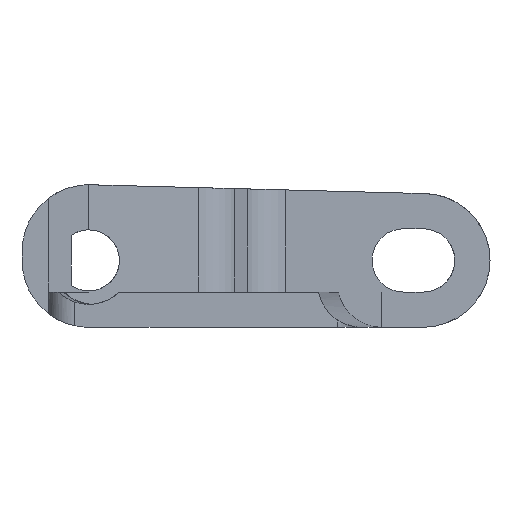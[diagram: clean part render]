
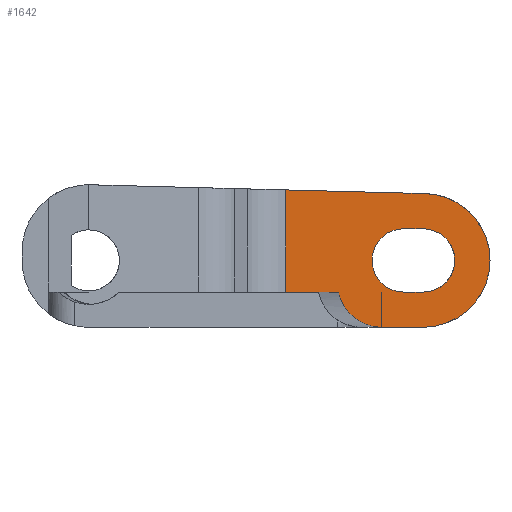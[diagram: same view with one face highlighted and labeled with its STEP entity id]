
A CAD part, front view. The second image highlights one B-rep face of the part: STEP entity #1642.
In plain terms, the highlighted planar face has unit normal (0, -1, 0).
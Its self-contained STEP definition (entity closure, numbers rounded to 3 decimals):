
#16=FACE_BOUND('',#217,.T.);
#33=ELLIPSE('',#1767,5.015,5.);
#65=PLANE('',#1766);
#131=FACE_OUTER_BOUND('',#216,.T.);
#216=EDGE_LOOP('',(#1223,#1224,#1225,#1226,#1227,#1228,#1229,#1230,#1231,
#1232));
#217=EDGE_LOOP('',(#1233,#1234,#1235,#1236));
#301=CIRCLE('',#1768,7.6);
#302=CIRCLE('',#1769,3.6);
#303=CIRCLE('',#1770,3.6);
#359=LINE('',#2552,#525);
#364=LINE('',#2567,#530);
#388=LINE('',#2638,#554);
#389=LINE('',#2640,#555);
#390=LINE('',#2644,#556);
#391=LINE('',#2646,#557);
#392=LINE('',#2647,#558);
#393=LINE('',#2649,#559);
#394=LINE('',#2655,#560);
#395=LINE('',#2658,#561);
#525=VECTOR('',#1980,4.818);
#530=VECTOR('',#1991,15.719);
#554=VECTOR('',#2055,11.612);
#555=VECTOR('',#2056,5.981);
#556=VECTOR('',#2059,4.);
#557=VECTOR('',#2060,0.064);
#558=VECTOR('',#2061,4.);
#559=VECTOR('',#2062,0.001);
#560=VECTOR('',#2067,2.2);
#561=VECTOR('',#2070,2.2);
#711=VERTEX_POINT('',#2549);
#712=VERTEX_POINT('',#2551);
#718=VERTEX_POINT('',#2564);
#719=VERTEX_POINT('',#2566);
#746=VERTEX_POINT('',#2637);
#747=VERTEX_POINT('',#2639);
#748=VERTEX_POINT('',#2641);
#749=VERTEX_POINT('',#2643);
#750=VERTEX_POINT('',#2645);
#751=VERTEX_POINT('',#2648);
#752=VERTEX_POINT('',#2651);
#753=VERTEX_POINT('',#2652);
#754=VERTEX_POINT('',#2654);
#755=VERTEX_POINT('',#2656);
#888=EDGE_CURVE('',#712,#711,#359,.T.);
#895=EDGE_CURVE('',#719,#718,#364,.T.);
#932=EDGE_CURVE('',#746,#718,#388,.T.);
#933=EDGE_CURVE('',#747,#746,#389,.T.);
#934=EDGE_CURVE('',#748,#747,#33,.T.);
#935=EDGE_CURVE('',#749,#748,#390,.T.);
#936=EDGE_CURVE('',#750,#749,#391,.T.);
#937=EDGE_CURVE('',#712,#750,#392,.T.);
#938=EDGE_CURVE('',#711,#751,#393,.T.);
#939=EDGE_CURVE('',#719,#751,#301,.T.);
#940=EDGE_CURVE('',#752,#753,#302,.T.);
#941=EDGE_CURVE('',#753,#754,#394,.T.);
#942=EDGE_CURVE('',#754,#755,#303,.T.);
#943=EDGE_CURVE('',#755,#752,#395,.T.);
#1223=ORIENTED_EDGE('',*,*,#895,.T.);
#1224=ORIENTED_EDGE('',*,*,#932,.F.);
#1225=ORIENTED_EDGE('',*,*,#933,.F.);
#1226=ORIENTED_EDGE('',*,*,#934,.F.);
#1227=ORIENTED_EDGE('',*,*,#935,.F.);
#1228=ORIENTED_EDGE('',*,*,#936,.F.);
#1229=ORIENTED_EDGE('',*,*,#937,.F.);
#1230=ORIENTED_EDGE('',*,*,#888,.T.);
#1231=ORIENTED_EDGE('',*,*,#938,.T.);
#1232=ORIENTED_EDGE('',*,*,#939,.F.);
#1233=ORIENTED_EDGE('',*,*,#940,.T.);
#1234=ORIENTED_EDGE('',*,*,#941,.T.);
#1235=ORIENTED_EDGE('',*,*,#942,.T.);
#1236=ORIENTED_EDGE('',*,*,#943,.T.);
#1642=ADVANCED_FACE('',(#131,#16),#65,.F.);
#1766=AXIS2_PLACEMENT_3D('',#2636,#2053,#2054);
#1767=AXIS2_PLACEMENT_3D('',#2642,#2057,#2058);
#1768=AXIS2_PLACEMENT_3D('',#2650,#2063,#2064);
#1769=AXIS2_PLACEMENT_3D('',#2653,#2065,#2066);
#1770=AXIS2_PLACEMENT_3D('',#2657,#2068,#2069);
#1980=DIRECTION('',(1.,0.,0.));
#1991=DIRECTION('',(-1.,0.,0.026));
#2053=DIRECTION('center_axis',(0.,1.,0.));
#2054=DIRECTION('ref_axis',(-1.,0.,0.));
#2055=DIRECTION('',(0.,0.,1.));
#2056=DIRECTION('',(-1.,0.,0.));
#2057=DIRECTION('center_axis',(0.,1.,0.));
#2058=DIRECTION('ref_axis',(1.,0.,0.));
#2059=DIRECTION('',(0.,0.,-1.));
#2060=DIRECTION('',(-1.,0.,0.));
#2061=DIRECTION('',(0.,0.,1.));
#2062=DIRECTION('',(0.,0.,1.));
#2063=DIRECTION('center_axis',(0.,1.,0.));
#2064=DIRECTION('ref_axis',(0.013,0.,-1.));
#2065=DIRECTION('center_axis',(0.,1.,0.));
#2066=DIRECTION('ref_axis',(0.028,0.,-1.));
#2067=DIRECTION('',(-1.,0.,0.));
#2068=DIRECTION('center_axis',(0.,1.,0.));
#2069=DIRECTION('ref_axis',(0.,0.,
-1.));
#2070=DIRECTION('',(1.,0.,0.));
#2549=CARTESIAN_POINT('',(38.1,-12.7,0.));
#2551=CARTESIAN_POINT('',(33.282,-12.7,0.));
#2552=CARTESIAN_POINT('',(33.282,-12.7,0.));
#2564=CARTESIAN_POINT('',(22.387,-12.7,15.612));
#2566=CARTESIAN_POINT('',(38.1,-12.7,15.199));
#2567=CARTESIAN_POINT('',(19.249,-12.7,15.694));
#2636=CARTESIAN_POINT('Origin',(38.1,-12.7,0.));
#2637=CARTESIAN_POINT('',(22.387,-12.7,4.));
#2638=CARTESIAN_POINT('',(22.387,-12.7,8.1));
#2639=CARTESIAN_POINT('',(28.368,-12.7,4.));
#2640=CARTESIAN_POINT('',(33.184,-12.7,4.));
#2641=CARTESIAN_POINT('',(33.218,-12.7,0.));
#2642=CARTESIAN_POINT('Origin',(33.282,-12.7,5.));
#2643=CARTESIAN_POINT('',(33.218,-12.7,4.));
#2644=CARTESIAN_POINT('',(33.218,-12.7,4.5));
#2645=CARTESIAN_POINT('',(33.282,-12.7,4.));
#2646=CARTESIAN_POINT('',(33.184,-12.7,4.));
#2647=CARTESIAN_POINT('',(33.282,-12.7,0.));
#2648=CARTESIAN_POINT('',(38.1,-12.7,0.001));
#2649=CARTESIAN_POINT('',(38.1,-12.7,0.));
#2650=CARTESIAN_POINT('Origin',(38.,-12.7,7.6));
#2651=CARTESIAN_POINT('',(38.,-12.7,11.2));
#2652=CARTESIAN_POINT('',(38.,-12.7,4.));
#2653=CARTESIAN_POINT('Origin',(38.,-12.7,7.6));
#2654=CARTESIAN_POINT('',(35.8,-12.7,4.));
#2655=CARTESIAN_POINT('',(36.95,-12.7,4.));
#2656=CARTESIAN_POINT('',(35.8,-12.7,11.2));
#2657=CARTESIAN_POINT('Origin',(35.8,-12.7,7.6));
#2658=CARTESIAN_POINT('',(38.05,-12.7,11.2));
